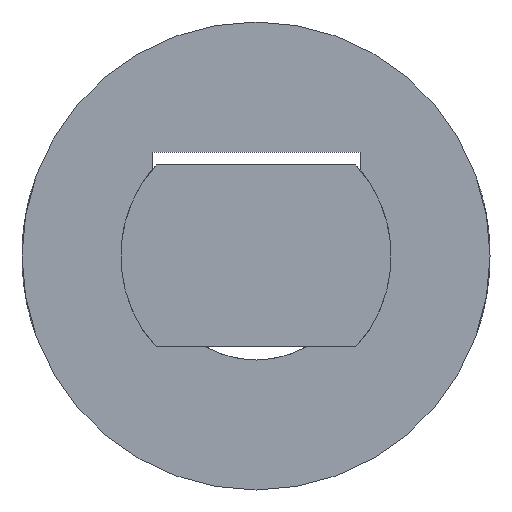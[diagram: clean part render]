
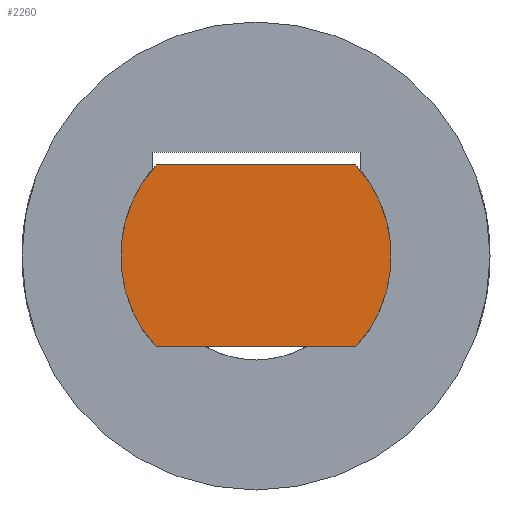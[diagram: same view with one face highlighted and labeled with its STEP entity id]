
A CAD part, front view. The second image highlights one B-rep face of the part: STEP entity #2260.
In plain terms, the highlighted planar face has unit normal (0, -1, 0) as drawn and (0, 1, 0) by its records, which use the part's own axes.
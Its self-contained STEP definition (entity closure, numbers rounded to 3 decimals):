
#51 = CYLINDRICAL_SURFACE('',#52,2.6);
#52 = AXIS2_PLACEMENT_3D('',#53,#54,#55);
#53 = CARTESIAN_POINT('',(0.,20.,0.));
#54 = DIRECTION('',(0.,-1.,0.));
#55 = DIRECTION('',(1.,0.,0.));
#108 = VERTEX_POINT('',#109);
#109 = CARTESIAN_POINT('',(1.923,20.,-1.75));
#122 = PLANE('',#123);
#123 = AXIS2_PLACEMENT_3D('',#124,#125,#126);
#124 = CARTESIAN_POINT('',(-3.,9.,-1.75));
#125 = DIRECTION('',(0.,0.,1.));
#126 = DIRECTION('',(1.,0.,0.));
#133 = EDGE_CURVE('',#108,#134,#136,.T.);
#134 = VERTEX_POINT('',#135);
#135 = CARTESIAN_POINT('',(1.923,20.,1.75));
#136 = SURFACE_CURVE('',#137,(#142,#149),.PCURVE_S1.);
#137 = CIRCLE('',#138,2.6);
#138 = AXIS2_PLACEMENT_3D('',#139,#140,#141);
#139 = CARTESIAN_POINT('',(0.,20.,0.));
#140 = DIRECTION('',(-0.,-1.,0.));
#141 = DIRECTION('',(-0.74,0.,0.673));
#142 = PCURVE('',#51,#143);
#143 = DEFINITIONAL_REPRESENTATION('',(#144),#148);
#144 = LINE('',#145,#146);
#145 = CARTESIAN_POINT('',(2.403,0.));
#146 = VECTOR('',#147,1.);
#147 = DIRECTION('',(1.,0.));
#148 = ( GEOMETRIC_REPRESENTATION_CONTEXT(2) 
PARAMETRIC_REPRESENTATION_CONTEXT() REPRESENTATION_CONTEXT('2D SPACE',''
  ) );
#149 = PCURVE('',#150,#155);
#150 = PLANE('',#151);
#151 = AXIS2_PLACEMENT_3D('',#152,#153,#154);
#152 = CARTESIAN_POINT('',(0.,20.,0.));
#153 = DIRECTION('',(0.,-1.,0.));
#154 = DIRECTION('',(1.,0.,0.));
#155 = DEFINITIONAL_REPRESENTATION('',(#156),#160);
#156 = CIRCLE('',#157,2.6);
#157 = AXIS2_PLACEMENT_2D('',#158,#159);
#158 = CARTESIAN_POINT('',(0.,0.));
#159 = DIRECTION('',(-0.74,0.673));
#160 = ( GEOMETRIC_REPRESENTATION_CONTEXT(2) 
PARAMETRIC_REPRESENTATION_CONTEXT() REPRESENTATION_CONTEXT('2D SPACE',''
  ) );
#175 = PLANE('',#176);
#176 = AXIS2_PLACEMENT_3D('',#177,#178,#179);
#177 = CARTESIAN_POINT('',(-3.,9.,1.75));
#178 = DIRECTION('',(0.,0.,1.));
#179 = DIRECTION('',(1.,0.,0.));
#321 = CYLINDRICAL_SURFACE('',#322,2.6);
#322 = AXIS2_PLACEMENT_3D('',#323,#324,#325);
#323 = CARTESIAN_POINT('',(0.,20.,0.));
#324 = DIRECTION('',(0.,-1.,0.));
#325 = DIRECTION('',(1.,0.,0.));
#835 = VERTEX_POINT('',#836);
#836 = CARTESIAN_POINT('',(-1.923,20.,-1.75));
#880 = VERTEX_POINT('',#881);
#881 = CARTESIAN_POINT('',(-1.923,20.,1.75));
#900 = EDGE_CURVE('',#880,#835,#901,.T.);
#901 = SURFACE_CURVE('',#902,(#907,#914),.PCURVE_S1.);
#902 = CIRCLE('',#903,2.6);
#903 = AXIS2_PLACEMENT_3D('',#904,#905,#906);
#904 = CARTESIAN_POINT('',(0.,20.,0.));
#905 = DIRECTION('',(-0.,-1.,0.));
#906 = DIRECTION('',(-0.74,0.,0.673));
#907 = PCURVE('',#321,#908);
#908 = DEFINITIONAL_REPRESENTATION('',(#909),#913);
#909 = LINE('',#910,#911);
#910 = CARTESIAN_POINT('',(2.403,0.));
#911 = VECTOR('',#912,1.);
#912 = DIRECTION('',(1.,0.));
#913 = ( GEOMETRIC_REPRESENTATION_CONTEXT(2) 
PARAMETRIC_REPRESENTATION_CONTEXT() REPRESENTATION_CONTEXT('2D SPACE',''
  ) );
#914 = PCURVE('',#150,#915);
#915 = DEFINITIONAL_REPRESENTATION('',(#916),#920);
#916 = CIRCLE('',#917,2.6);
#917 = AXIS2_PLACEMENT_2D('',#918,#919);
#918 = CARTESIAN_POINT('',(0.,0.));
#919 = DIRECTION('',(-0.74,0.673));
#920 = ( GEOMETRIC_REPRESENTATION_CONTEXT(2) 
PARAMETRIC_REPRESENTATION_CONTEXT() REPRESENTATION_CONTEXT('2D SPACE',''
  ) );
#2215 = EDGE_CURVE('',#835,#108,#2216,.T.);
#2216 = SURFACE_CURVE('',#2217,(#2221,#2228),.PCURVE_S1.);
#2217 = LINE('',#2218,#2219);
#2218 = CARTESIAN_POINT('',(-3.,20.,-1.75));
#2219 = VECTOR('',#2220,1.);
#2220 = DIRECTION('',(1.,0.,0.));
#2221 = PCURVE('',#122,#2222);
#2222 = DEFINITIONAL_REPRESENTATION('',(#2223),#2227);
#2223 = LINE('',#2224,#2225);
#2224 = CARTESIAN_POINT('',(0.,11.));
#2225 = VECTOR('',#2226,1.);
#2226 = DIRECTION('',(1.,0.));
#2227 = ( GEOMETRIC_REPRESENTATION_CONTEXT(2) 
PARAMETRIC_REPRESENTATION_CONTEXT() REPRESENTATION_CONTEXT('2D SPACE',''
  ) );
#2228 = PCURVE('',#150,#2229);
#2229 = DEFINITIONAL_REPRESENTATION('',(#2230),#2234);
#2230 = LINE('',#2231,#2232);
#2231 = CARTESIAN_POINT('',(-3.,-1.75));
#2232 = VECTOR('',#2233,1.);
#2233 = DIRECTION('',(1.,0.));
#2234 = ( GEOMETRIC_REPRESENTATION_CONTEXT(2) 
PARAMETRIC_REPRESENTATION_CONTEXT() REPRESENTATION_CONTEXT('2D SPACE',''
  ) );
#2260 = ADVANCED_FACE('',(#2261),#150,.F.);
#2261 = FACE_BOUND('',#2262,.F.);
#2262 = EDGE_LOOP('',(#2263,#2284,#2285,#2286));
#2263 = ORIENTED_EDGE('',*,*,#2264,.F.);
#2264 = EDGE_CURVE('',#880,#134,#2265,.T.);
#2265 = SURFACE_CURVE('',#2266,(#2270,#2277),.PCURVE_S1.);
#2266 = LINE('',#2267,#2268);
#2267 = CARTESIAN_POINT('',(-3.,20.,1.75));
#2268 = VECTOR('',#2269,1.);
#2269 = DIRECTION('',(1.,0.,0.));
#2270 = PCURVE('',#150,#2271);
#2271 = DEFINITIONAL_REPRESENTATION('',(#2272),#2276);
#2272 = LINE('',#2273,#2274);
#2273 = CARTESIAN_POINT('',(-3.,1.75));
#2274 = VECTOR('',#2275,1.);
#2275 = DIRECTION('',(1.,0.));
#2276 = ( GEOMETRIC_REPRESENTATION_CONTEXT(2) 
PARAMETRIC_REPRESENTATION_CONTEXT() REPRESENTATION_CONTEXT('2D SPACE',''
  ) );
#2277 = PCURVE('',#175,#2278);
#2278 = DEFINITIONAL_REPRESENTATION('',(#2279),#2283);
#2279 = LINE('',#2280,#2281);
#2280 = CARTESIAN_POINT('',(0.,11.));
#2281 = VECTOR('',#2282,1.);
#2282 = DIRECTION('',(1.,0.));
#2283 = ( GEOMETRIC_REPRESENTATION_CONTEXT(2) 
PARAMETRIC_REPRESENTATION_CONTEXT() REPRESENTATION_CONTEXT('2D SPACE',''
  ) );
#2284 = ORIENTED_EDGE('',*,*,#900,.T.);
#2285 = ORIENTED_EDGE('',*,*,#2215,.T.);
#2286 = ORIENTED_EDGE('',*,*,#133,.T.);
